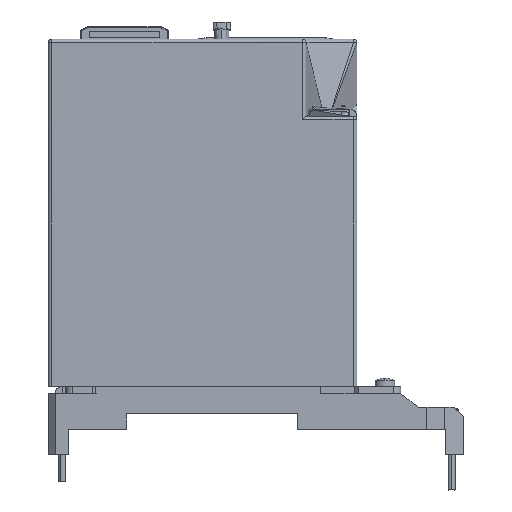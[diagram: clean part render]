
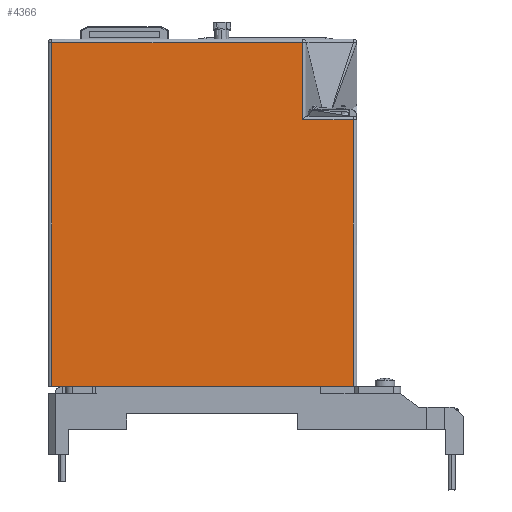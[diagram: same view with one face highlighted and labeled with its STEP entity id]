
A CAD part, left-side view. The second image highlights one B-rep face of the part: STEP entity #4366.
In plain terms, the highlighted planar face has unit normal (1, 0, 0).
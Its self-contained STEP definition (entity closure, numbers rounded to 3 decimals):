
#592 = CARTESIAN_POINT ( 'NONE',  ( -34.606, -20.725, 141.5 ) ) ;
#2108 = B_SPLINE_CURVE_WITH_KNOTS ( 'NONE', 3,
 ( #30282, #8833, #18189, #28188 ),
 .UNSPECIFIED., .F., .F.,
 ( 4, 4 ),
 ( 0., 1. ),
 .UNSPECIFIED. ) ;
#2117 = B_SPLINE_CURVE_WITH_KNOTS ( 'NONE', 3,
 ( #9854, #7736, #15031, #26662 ),
 .UNSPECIFIED., .F., .F.,
 ( 4, 4 ),
 ( 0., 1. ),
 .UNSPECIFIED. ) ;
#2372 = CARTESIAN_POINT ( 'NONE',  ( -34.606, 66.275, 164.5 ) ) ;
#2507 = EDGE_CURVE ( 'NONE', #4723, #17860, #2108, .T. ) ;
#2658 = CARTESIAN_POINT ( 'NONE',  ( -34.606, -20.725, 65.5 ) ) ;
#2887 = CARTESIAN_POINT ( 'NONE',  ( -34.606, -6.225, 163.5 ) ) ;
#4051 = VERTEX_POINT ( 'NONE', #592 ) ;
#4269 = CARTESIAN_POINT ( 'NONE',  ( -34.606, 65.275, 65.5 ) ) ;
#4366 = ADVANCED_FACE ( 'NONE', ( #12356 ), #16867, .T. ) ;
#4723 = VERTEX_POINT ( 'NONE', #10062 ) ;
#4740 = CARTESIAN_POINT ( 'NONE',  ( -34.606, -20.725, 141.5 ) ) ;
#6011 = VERTEX_POINT ( 'NONE', #2658 ) ;
#7136 = CARTESIAN_POINT ( 'NONE',  ( -34.606, -20.725, 65.5 ) ) ;
#7211 = CARTESIAN_POINT ( 'NONE',  ( -34.606, 65.275, 98.167 ) ) ;
#7465 = CARTESIAN_POINT ( 'NONE',  ( -34.606, -6.225, 141.5 ) ) ;
#7599 = AXIS2_PLACEMENT_3D ( 'NONE', #2372, #21476, #16955 ) ;
#7736 = CARTESIAN_POINT ( 'NONE',  ( -34.606, -6.225, 156.167 ) ) ;
#8833 = CARTESIAN_POINT ( 'NONE',  ( -34.606, 41.441, 163.5 ) ) ;
#9558 = CARTESIAN_POINT ( 'NONE',  ( -34.606, -20.725, 90.833 ) ) ;
#9854 = CARTESIAN_POINT ( 'NONE',  ( -34.606, -6.225, 163.5 ) ) ;
#9865 = CARTESIAN_POINT ( 'NONE',  ( -34.606, 65.275, 65.5 ) ) ;
#9906 = EDGE_LOOP ( 'NONE', ( #27983, #18239, #30848, #29802, #15963, #23342 ) ) ;
#10062 = CARTESIAN_POINT ( 'NONE',  ( -34.606, 65.275, 163.5 ) ) ;
#10093 = CARTESIAN_POINT ( 'NONE',  ( -34.606, -15.892, 141.5 ) ) ;
#10230 = EDGE_CURVE ( 'NONE', #26009, #6011, #29888, .T. ) ;
#12356 = FACE_OUTER_BOUND ( 'NONE', #9906, .T. ) ;
#14749 = CARTESIAN_POINT ( 'NONE',  ( -34.606, -20.725, 141.5 ) ) ;
#15031 = CARTESIAN_POINT ( 'NONE',  ( -34.606, -6.225, 148.833 ) ) ;
#15563 = VERTEX_POINT ( 'NONE', #19497 ) ;
#15963 = ORIENTED_EDGE ( 'NONE', *, *, #22090, .T. ) ;
#16358 = EDGE_CURVE ( 'NONE', #15563, #4051, #22044, .T. ) ;
#16786 = CARTESIAN_POINT ( 'NONE',  ( -34.606, 65.275, 65.5 ) ) ;
#16867 = PLANE ( 'NONE',  #7599 ) ;
#16955 = DIRECTION ( 'NONE',  ( 0., 1., 0. ) ) ;
#17860 = VERTEX_POINT ( 'NONE', #2887 ) ;
#18189 = CARTESIAN_POINT ( 'NONE',  ( -34.606, 17.608, 163.5 ) ) ;
#18239 = ORIENTED_EDGE ( 'NONE', *, *, #16358, .T. ) ;
#19497 = CARTESIAN_POINT ( 'NONE',  ( -34.606, -6.225, 141.5 ) ) ;
#21476 = DIRECTION ( 'NONE',  ( 1., 0., 0. ) ) ;
#21838 = CARTESIAN_POINT ( 'NONE',  ( -34.606, 7.941, 65.5 ) ) ;
#22044 = B_SPLINE_CURVE_WITH_KNOTS ( 'NONE', 3,
 ( #7465, #26892, #10093, #14749 ),
 .UNSPECIFIED., .F., .F.,
 ( 4, 4 ),
 ( 0., 1. ),
 .UNSPECIFIED. ) ;
#22090 = EDGE_CURVE ( 'NONE', #26009, #4723, #25254, .T. ) ;
#23342 = ORIENTED_EDGE ( 'NONE', *, *, #2507, .T. ) ;
#24422 = B_SPLINE_CURVE_WITH_KNOTS ( 'NONE', 3,
 ( #4740, #28398, #9558, #7136 ),
 .UNSPECIFIED., .F., .F.,
 ( 4, 4 ),
 ( 0., 1. ),
 .UNSPECIFIED. ) ;
#24927 = EDGE_CURVE ( 'NONE', #4051, #6011, #24422, .T. ) ;
#25254 = B_SPLINE_CURVE_WITH_KNOTS ( 'NONE', 3,
 ( #16786, #7211, #28473, #26442 ),
 .UNSPECIFIED., .F., .F.,
 ( 4, 4 ),
 ( 0., 1. ),
 .UNSPECIFIED. ) ;
#26009 = VERTEX_POINT ( 'NONE', #4269 ) ;
#26442 = CARTESIAN_POINT ( 'NONE',  ( -34.606, 65.275, 163.5 ) ) ;
#26577 = CARTESIAN_POINT ( 'NONE',  ( -34.606, 36.608, 65.5 ) ) ;
#26662 = CARTESIAN_POINT ( 'NONE',  ( -34.606, -6.225, 141.5 ) ) ;
#26892 = CARTESIAN_POINT ( 'NONE',  ( -34.606, -11.059, 141.5 ) ) ;
#27523 = EDGE_CURVE ( 'NONE', #17860, #15563, #2117, .T. ) ;
#27983 = ORIENTED_EDGE ( 'NONE', *, *, #27523, .T. ) ;
#28188 = CARTESIAN_POINT ( 'NONE',  ( -34.606, -6.225, 163.5 ) ) ;
#28398 = CARTESIAN_POINT ( 'NONE',  ( -34.606, -20.725, 116.167 ) ) ;
#28473 = CARTESIAN_POINT ( 'NONE',  ( -34.606, 65.275, 130.833 ) ) ;
#29297 = CARTESIAN_POINT ( 'NONE',  ( -34.606, -20.725, 65.5 ) ) ;
#29802 = ORIENTED_EDGE ( 'NONE', *, *, #10230, .F. ) ;
#29888 = B_SPLINE_CURVE_WITH_KNOTS ( 'NONE', 3,
 ( #9865, #26577, #21838, #29297 ),
 .UNSPECIFIED., .F., .F.,
 ( 4, 4 ),
 ( 0., 1. ),
 .UNSPECIFIED. ) ;
#30282 = CARTESIAN_POINT ( 'NONE',  ( -34.606, 65.275, 163.5 ) ) ;
#30848 = ORIENTED_EDGE ( 'NONE', *, *, #24927, .T. ) ;
